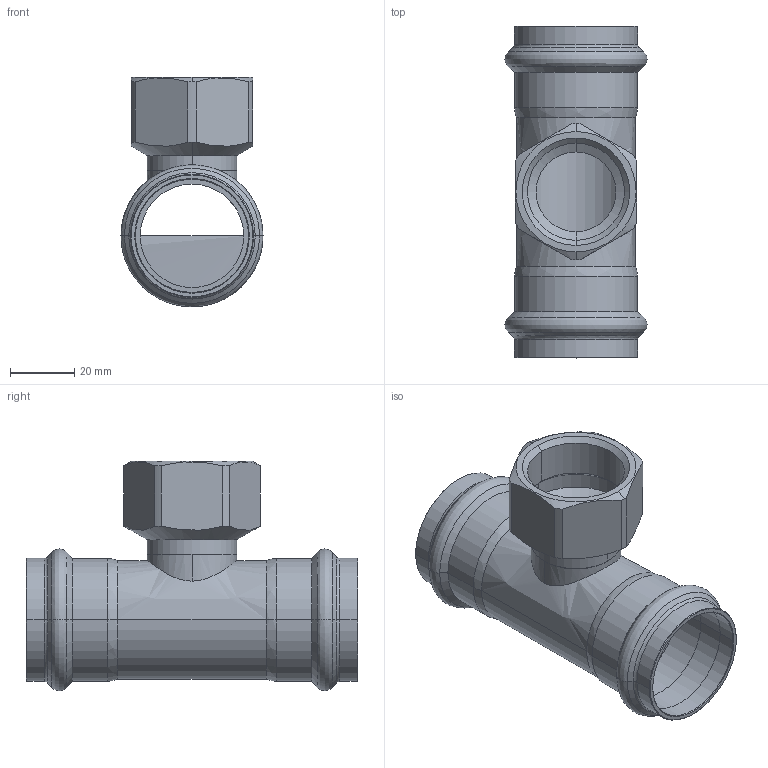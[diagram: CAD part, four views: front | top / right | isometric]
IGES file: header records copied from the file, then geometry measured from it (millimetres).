
Start section: Elysium IGES Interface
Global section: file name: C:\Users\Wallenburg\Desktop\3d modellen sudo\S-Pr VP\SP6130GV\6130GVW35135.igs; native system: CoCreate Modeling 17.00A  17-Jun-2010; preprocessor: CoCreate IGES_3D V2.2; author: Unknown; organization: Unknown; date: 20130121.152123; units: millimetre
Bounding box: 44.3 x 103.51 x 71.63 mm (x, y, z)
Volume: 33577 mm3; surface area: 32186.2 mm2
Topology: 1 solids, 1 shells, 116 faces, 264 edges, 148 vertices
Faces by surface type: bspline 116
